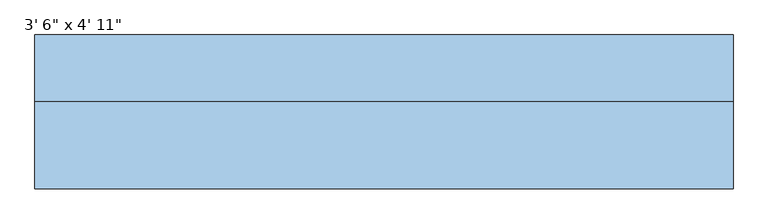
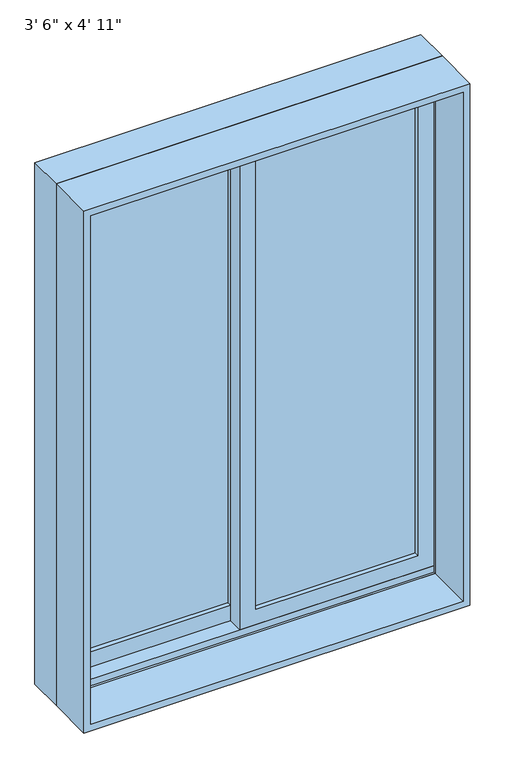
"""IFC4 building model written with IfcOpenShell, lengths in millimetres: window geometry."""

from ifc_helpers import new_model, si_unit, frame, origin, place, context, project, spatial, polyline, outline, extrude, faceted_brep, source, transform, mapped, element, save


def window_b64ba72f(model_context):
    return source(origin(), model_context, "Body", "SolidModel", [
        extrude(outline(polyline([(933.45, -514.35), (933.45, 22.225), (2419.35, 22.225), (2419.35, -514.35), (933.45, -514.35)]), holes=[polyline([(2374.9, -22.225), (996.95, -22.225), (996.95, -469.9), (2374.9, -469.9), (2374.9, -22.225)])]), frame((0.0, 72.39, 0.0), z_axis=(0.0, 1.0, 0.0), x_axis=(0.0, 0.0, 1.0)), (0.0, 0.0, 1.0), 44.45),
        extrude(outline(polyline([(952.5, 514.35), (2419.35, 514.35), (2419.35, -22.225), (952.5, -22.225), (952.5, 514.35)]), holes=[polyline([(996.95, 22.225), (2374.9, 22.225), (2374.9, 469.9), (996.95, 469.9), (996.95, 22.225)])]), frame((0.0, 27.94, 0.0), z_axis=(0.0, 1.0, 0.0), x_axis=(0.0, 0.0, 1.0)), (0.0, 0.0, 1.0), 44.45),
        faceted_brep([(-533.4, 21.59, 914.4), (-533.4, 123.19, 914.4), (533.4, 123.19, 914.4), (533.4, 21.59, 914.4), (-492.4778905, 123.19, 2397.4778905), (-492.4778905, 116.84, 2397.4778905), (-492.4778905, 116.84, 933.45), (-492.4778905, 123.19, 933.45), (492.4778905, 116.84, 2397.4778905), (492.4778905, 116.84, 933.45), (514.35, 116.84, 933.45), (514.35, 116.84, 2419.35), (-514.35, 116.84, 2419.35), (-514.35, 116.84, 933.45), (-514.35, 21.59, 2419.35), (-514.35, 21.59, 933.45), (-514.35, 27.94, 933.45), (-514.35, 27.94, 952.5), (-514.35, 72.39, 952.5), (-514.35, 72.39, 933.45), (533.4, 21.59, 2438.4), (-533.4, 21.59, 2438.4), (514.35, 21.59, 2419.35), (514.35, 21.59, 933.45), (-533.4, 123.19, 2438.4), (533.4, 123.19, 2438.4), (492.4778905, 123.19, 933.45), (492.4778905, 123.19, 2397.4778905), (514.35, 72.39, 933.45), (514.35, 72.39, 952.5), (514.35, 27.94, 952.5), (514.35, 27.94, 933.45)], [[[0, 1, 2, 3]], [[4, 5, 6, 7]], [[5, 8, 9, 10, 11, 12, 13, 6]], [[12, 14, 15, 16, 17, 18, 19, 13]], [[0, 3, 20, 21], [22, 23, 15, 14]], [[24, 1, 0, 21]], [[2, 1, 24, 25], [4, 7, 26, 27]], [[5, 4, 27, 8]], [[12, 11, 22, 14]], [[21, 20, 25, 24]], [[8, 27, 26, 9]], [[22, 11, 10, 28, 29, 30, 31, 23]], [[20, 3, 2, 25]], [[26, 7, 6, 13, 19, 28, 10, 9]], [[28, 19, 18, 29]], [[29, 18, 17, 30]], [[30, 17, 16, 31]], [[15, 23, 31, 16]]]),
        extrude(outline(polyline([(2438.4, -533.4), (914.4, -533.4), (914.4, 533.4), (2438.4, 533.4), (2438.4, -533.4)]), holes=[polyline([(2419.35, 514.35), (933.45, 514.35), (933.45, -514.35), (2419.35, -514.35), (2419.35, 514.35)])]), frame((0.0, -111.76, 0.0), z_axis=(0.0, 1.0, 0.0), x_axis=(0.0, 0.0, 1.0)), (0.0, 0.0, 1.0), 133.35),
        extrude(outline(polyline([(469.9, 59.69), (469.9, 53.34), (22.225, 53.34), (22.225, 59.69), (469.9, 59.69)])), frame((0.0, 0.0, 996.95), z_axis=(0.0, 0.0, 1.0), x_axis=(1.0, 0.0, 0.0)), (0.0, 0.0, 1.0), 1377.95),
        extrude(outline(polyline([(469.9, 46.99), (469.9, 40.64), (22.225, 40.64), (22.225, 46.99), (469.9, 46.99)])), frame((0.0, 0.0, 996.95), z_axis=(0.0, 0.0, 1.0), x_axis=(1.0, 0.0, 0.0)), (0.0, 0.0, 1.0), 1377.95),
        extrude(outline(polyline([(-22.225, 104.14), (-22.225, 97.79), (-469.9, 97.79), (-469.9, 104.14), (-22.225, 104.14)])), frame((0.0, 0.0, 996.95), z_axis=(0.0, 0.0, 1.0), x_axis=(1.0, 0.0, 0.0)), (0.0, 0.0, 1.0), 1377.95),
        extrude(outline(polyline([(-22.225, 91.44), (-22.225, 85.09), (-469.9, 85.09), (-469.9, 91.44), (-22.225, 91.44)])), frame((0.0, 0.0, 996.95), z_axis=(0.0, 0.0, 1.0), x_axis=(1.0, 0.0, 0.0)), (0.0, 0.0, 1.0), 1377.95),
    ])


if __name__ == "__main__":
    model = new_model("IFC4")
    model_context = context("Model", 3, world=origin())
    ifc_project = project(units=[si_unit("LENGTHUNIT", "METRE", prefix="MILLI")], contexts=[model_context])
    site = spatial("IfcSite", under=ifc_project)
    building = spatial("IfcBuilding", under=site)
    placement = place(None, origin())
    window_shape = window_b64ba72f(model_context)
    element("IfcWindow", 1, ObjectType="Planitar-Sliding-Double : 3' 6\" x 4' 11\"", at=placement, inside=building, context=model_context, shape_type="MappedRepresentation", body=[
        mapped(window_shape, transform((0.0, 0.0, 0.0), x_axis=(1.0, 0.0, 0.0), y_axis=(0.0, 1.0, 0.0), z_axis=(0.0, 0.0, 1.0))),
    ])
    save(model, "model.ifc")
